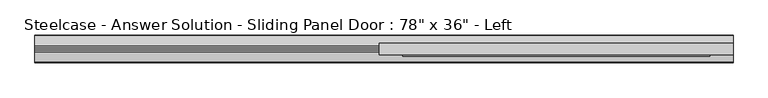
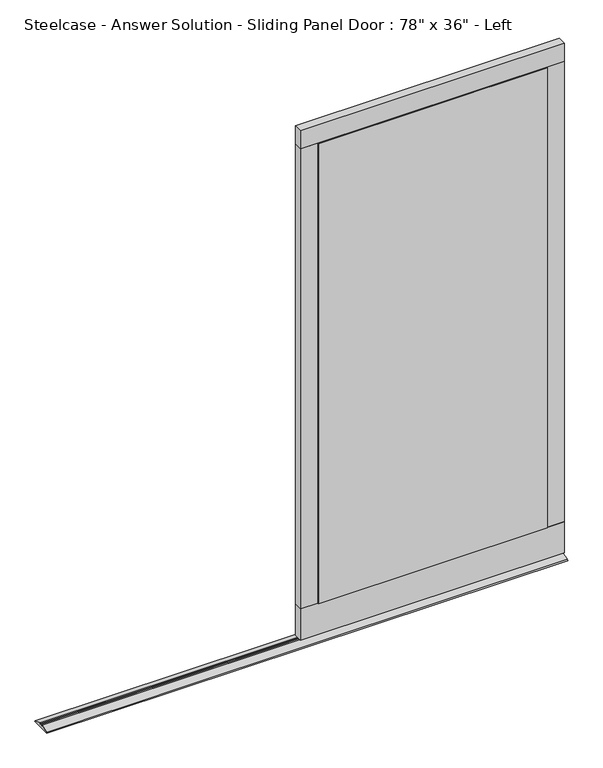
"""IFC4 building model written with IfcOpenShell, lengths in millimetres: furniture geometry."""

from ifc_helpers import new_model, si_unit, frame, origin, place, context, project, spatial, polyline, outline, extrude, source, transform, mapped, element, save


def furniture_98815cc0(model_context):
    return source(origin(), model_context, "Body", "SweptSolid", [
        extrude(outline(polyline([(1854.2, -53.9597878), (889.0, -53.9597878), (889.0, -22.2097635), (1854.2, -22.2097635), (1854.2, -53.9597878)])), frame((0.0, 0.0, 1915.1589729), z_axis=(0.0, 0.0, 1.0), x_axis=(1.0, 0.0, 0.0)), (0.0, 0.0, 1.0), 69.8499516),
        extrude(outline(polyline([(952.4999031, -53.9597878), (889.0, -53.9597878), (889.0, -22.2097635), (952.4999031, -22.2097635), (952.4999031, -53.9597878)])), frame((0.0, 0.0, 137.1589275), z_axis=(0.0, 0.0, 1.0), x_axis=(1.0, 0.0, 0.0)), (0.0, 0.0, 1.0), 1778.0000454),
        extrude(outline(polyline([(1854.2, -53.9597878), (1790.7000969, -53.9597878), (1790.7000969, -22.2097635), (1854.2, -22.2097635), (1854.2, -53.9597878)])), frame((0.0, 0.0, 137.1589275), z_axis=(0.0, 0.0, 1.0), x_axis=(1.0, 0.0, 0.0)), (0.0, 0.0, 1.0), 1778.0000454),
        extrude(outline(polyline([(1854.2, -53.9597878), (889.0, -53.9597878), (889.0, -22.2097635), (1854.2, -22.2097635), (1854.2, -53.9597878)])), frame((0.0, 0.0, 16.5089245), z_axis=(0.0, 0.0, 1.0), x_axis=(1.0, 0.0, 0.0)), (0.0, 0.0, 1.0), 120.650003),
        extrude(outline(polyline([(1790.7000969, -53.9597878), (1790.7000969, -57.7514894), (952.4999031, -57.7514894), (952.4999031, -53.9597878), (1790.7000969, -53.9597878)])), frame((0.0, 0.0, 137.1589275), z_axis=(0.0, 0.0, 1.0), x_axis=(1.0, 0.0, 0.0)), (0.0, 0.0, 1.0), 1778.0000454),
        extrude(outline(polyline([(-29.8388763, 12.2491055), (-1.9333122, 3.0138476), (0.0, 0.0), (-76.1694786, 0.0), (-74.2361664, 3.0138476), (-46.3306023, 12.2491055), (-46.3306023, 6.2879429), (-39.9806265, 6.2879429), (-39.9806265, 12.6379637), (-36.1889248, 12.6379637), (-36.1889248, 6.2879429), (-29.8388763, 6.2879429), (-29.8388763, 12.2491055)])), frame((-50.8, 0.0, 0.0), z_axis=(1.0, 0.0, 0.0), x_axis=(0.0, 1.0, 0.0)), (0.0, 0.0, 1.0), 1905.0),
    ])


if __name__ == "__main__":
    model = new_model("IFC4")
    model_context = context("Model", 3, world=origin())
    ifc_project = project(units=[si_unit("LENGTHUNIT", "METRE", prefix="MILLI")], contexts=[model_context])
    site = spatial("IfcSite", under=ifc_project)
    building = spatial("IfcBuilding", under=site)
    placement = place(None, origin())
    furniture_shape = furniture_98815cc0(model_context)
    element("IfcFurniture", 1, ObjectType="Steelcase - Answer Solution - Sliding Panel Door : 78\" x 36\" - Left", at=placement, inside=building, context=model_context, shape_type="MappedRepresentation", body=[
        mapped(furniture_shape, transform((0.0, 0.0, 0.0), x_axis=(1.0, 0.0, 0.0), y_axis=(0.0, 1.0, 0.0), z_axis=(0.0, 0.0, 1.0))),
    ])
    save(model, "model.ifc")
